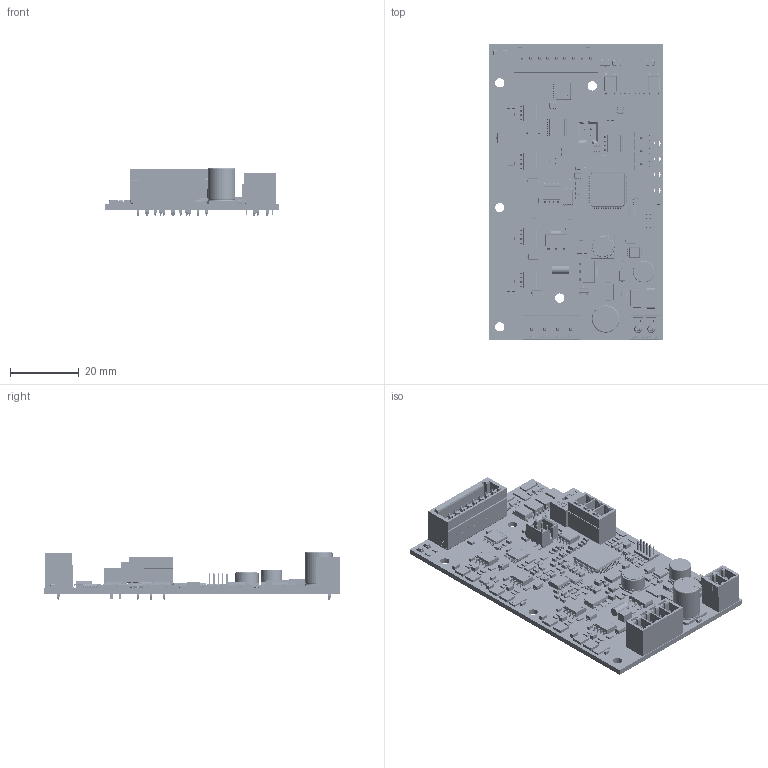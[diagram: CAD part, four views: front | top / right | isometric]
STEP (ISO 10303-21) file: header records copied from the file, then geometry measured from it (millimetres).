
FILE_DESCRIPTION(/* description */ ('Unknown'),/* implementation_level */ '2;1');
FILE_NAME(/* name */ 'IMD15-00_2025-02-13',/* time_stamp */ '2025-02-13T10:43:18+01:00',/* author */ ('Unknown'),/* organization */ ('Unknown'),/* preprocessor_version */ 'ST-DEVELOPER v16.7',/* originating_system */ 'Solid Edge',/* authorisation */ 'Unknown');
FILE_SCHEMA (('AUTOMOTIVE_DESIGN {1 0 10303 214 3 1 1}'));
Products named in the file (315): IMD15-00; Board; Open CASCADE STEP translator 7.5 2.1.1; IC200; User Library-SOT363-2; C219; CAPC1608X09; LED405; Wurth 156125YS57000; contact-pins; contact-pins_0; PCB; glass housing; Polarity Mark; isolation; LED404; LED403; LED402; Z200; User Library-DO-214AA(SMB); XT400; xtal_smd_5x3e2; U700; User Library-SC70-5-1; U400; User Library-TSS0P8; U304; User Library-so8-4; U303; U302; U301; U300; U200; User Library-EMSOP-8 Natl Semi MUY08A; TRP200; User Library-SOT23-2; TRN500; TRN200; User Library-SOT-223-1; ST200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
Assembly tree (582 placements, depth 6):
  IMD15-00
    Board
      Open CASCADE STEP translator 7.5 2.1.1
    IC200
      User Library-SOT363-2
    C219
      CAPC1608X09
    LED405
      Wurth 156125YS57000
        contact-pins
        contact-pins_0
        PCB
        glass housing
        Polarity Mark
        isolation  x2
    LED404
      Wurth 156125YS57000
        contact-pins
        contact-pins_0
        PCB
        glass housing
        Polarity Mark
        isolation  x2
    LED403
      Wurth 156125YS57000
        contact-pins
        contact-pins_0
        PCB
        glass housing
        Polarity Mark
        isolation  x2
    LED402
      Wurth 156125YS57000
        contact-pins
        contact-pins_0
        PCB
        glass housing
        Polarity Mark
        isolation  x2
    Z200
      User Library-DO-214AA(SMB)
    XT400
      xtal_smd_5x3e2
    U700
      User Library-SC70-5-1
    U400
      User Library-TSS0P8
    U304
      User Library-so8-4
    U303
      User Library-so8-4
    U302
      User Library-so8-4
    U301
      User Library-so8-4
    U300
      User Library-so8-4
    U200
      User Library-EMSOP-8 Natl Semi MUY08A
    TRP200
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Bounding box: 50.5 x 86.5 x 14.05 mm (x, y, z)
Volume: 12393.1 mm3; surface area: 20486.2 mm2
Topology: 347 solids, 347 shells, 17329 faces, 42950 edges, 25448 vertices
Faces by surface type: plane 9573, cylinder 4955, sphere 1391, torus 762, bspline 623, cone 25
Full cylindrical faces by diameter (mm): 0.175 x4, 0.364 x1, 0.457 x3, 0.5 x1, 0.6 x12, 1 x5, 1.2 x16, 1.4 x18, 1.6 x13, 1.85 x4, 2.5 x5, 2.7 x5, 5.9 x1, 6.062 x1, 6.3 x2, 7 x1, 8 x2
Entity records: 204671 total; most frequent: CARTESIAN_POINT 41077, ORIENTED_EDGE 26456, DIRECTION 25713, EDGE_CURVE 13228, LINE 10437, VECTOR 10437, VERTEX_POINT 8471, AXIS2_PLACEMENT_3D 7638
